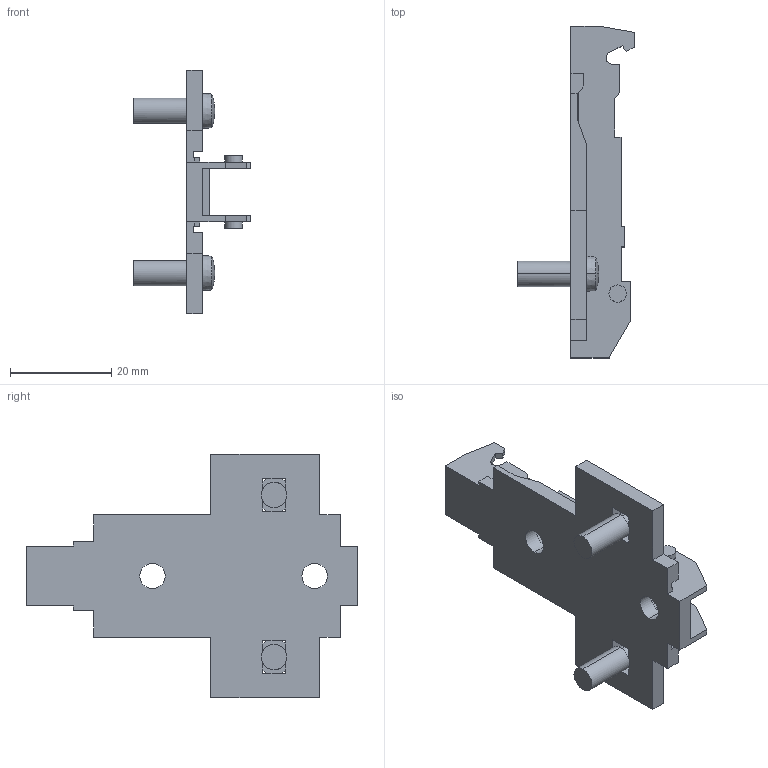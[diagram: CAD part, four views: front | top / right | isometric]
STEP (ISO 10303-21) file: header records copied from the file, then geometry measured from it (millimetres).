
FILE_DESCRIPTION (( 'STEP AP214' ), '1' );
FILE_NAME ('1D_Kreuzmontageplatte 28_32_5mm_Dübel_lang_2.step', '2010-11-18T10:20:44', ( 'grass' ), ( '' ), 'SwSTEP 2.0', 'SolidWorks 2010', '' );
FILE_SCHEMA (( 'AUTOMOTIVE_DESIGN' ));
Length unit declared in the file: millimetre
Products named in the file (1): 1D_Kreuzmontageplatte 28_32_5mm_Dübel_lang_2
Bounding box: 23 x 65.5 x 48 mm (x, y, z)
Volume: 6923.7 mm3; surface area: 7283.1 mm2
Topology: 1 solids, 1 shells, 126 faces, 388 edges, 250 vertices
Faces by surface type: plane 96, cylinder 22, sphere 4, cone 4
Entity records: 4374 total; most frequent: ORIENTED_EDGE 776, CARTESIAN_POINT 765, DIRECTION 722, EDGE_CURVE 388, VECTOR 308, LINE 308, VERTEX_POINT 250, AXIS2_PLACEMENT_3D 207
